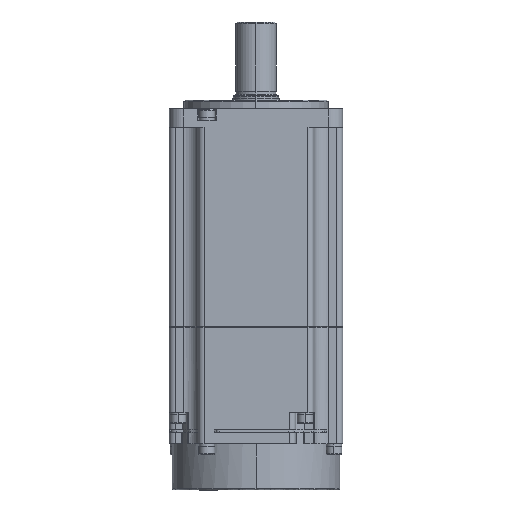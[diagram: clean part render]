
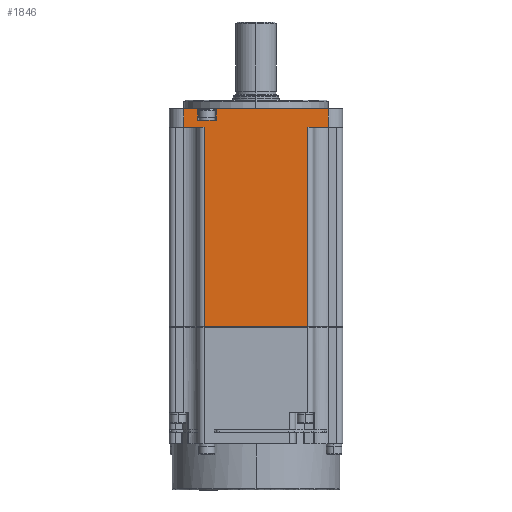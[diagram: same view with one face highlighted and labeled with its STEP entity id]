
A CAD part, front view. The second image highlights one B-rep face of the part: STEP entity #1846.
In plain terms, the highlighted planar face has unit normal (0, -1, 0).
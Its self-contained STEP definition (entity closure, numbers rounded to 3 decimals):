
#574 = VECTOR ( 'NONE', #13949, 1000. ) ;
#761 = DIRECTION ( 'NONE',  ( 1., 0., 0. ) ) ;
#762 = LINE ( 'NONE', #33940, #574 ) ;
#883 = CARTESIAN_POINT ( 'NONE',  ( -18., -30., 62.7 ) ) ;
#942 = DIRECTION ( 'NONE',  ( 0., 0., -1. ) ) ;
#948 = ORIENTED_EDGE ( 'NONE', *, *, #26520, .T. ) ;
#1383 = CARTESIAN_POINT ( 'NONE',  ( -25., -30., 55.7 ) ) ;
#1846 = ADVANCED_FACE ( 'NONE', ( #44628 ), #31907, .T. ) ;
#1963 = VECTOR ( 'NONE', #17469, 1000. ) ;
#2011 = LINE ( 'NONE', #1383, #1963 ) ;
#2272 = LINE ( 'NONE', #29491, #2508 ) ;
#2508 = VECTOR ( 'NONE', #5359, 1000. ) ;
#2511 = VERTEX_POINT ( 'NONE', #38206 ) ;
#2664 = ORIENTED_EDGE ( 'NONE', *, *, #3378, .T. ) ;
#2924 = DIRECTION ( 'NONE',  ( 0., 0., -1. ) ) ;
#3006 = CARTESIAN_POINT ( 'NONE',  ( -20.25, -30., 59.7 ) ) ;
#3142 = EDGE_CURVE ( 'NONE', #3920, #37484, #30599, .T. ) ;
#3378 = EDGE_CURVE ( 'NONE', #20192, #23199, #9433, .T. ) ;
#3920 = VERTEX_POINT ( 'NONE', #41081 ) ;
#5359 = DIRECTION ( 'NONE',  ( 0., 0., -1. ) ) ;
#6926 = VERTEX_POINT ( 'NONE', #37140 ) ;
#9433 = LINE ( 'NONE', #12657, #9535 ) ;
#9535 = VECTOR ( 'NONE', #11806, 1000. ) ;
#9812 = VERTEX_POINT ( 'NONE', #50660 ) ;
#10843 = ORIENTED_EDGE ( 'NONE', *, *, #25667, .T. ) ;
#10996 = VECTOR ( 'NONE', #13310, 1000. ) ;
#11052 = LINE ( 'NONE', #13366, #10996 ) ;
#11798 = CARTESIAN_POINT ( 'NONE',  ( -13.75, -30., 59.7 ) ) ;
#11806 = DIRECTION ( 'NONE',  ( -1., 0., 0. ) ) ;
#12313 = EDGE_CURVE ( 'NONE', #17481, #12872, #46751, .T. ) ;
#12389 = EDGE_CURVE ( 'NONE', #9812, #12872, #37854, .T. ) ;
#12535 = EDGE_CURVE ( 'NONE', #6926, #9812, #11052, .T. ) ;
#12657 = CARTESIAN_POINT ( 'NONE',  ( -25., -30., 59.7 ) ) ;
#12782 = ORIENTED_EDGE ( 'NONE', *, *, #25893, .T. ) ;
#12872 = VERTEX_POINT ( 'NONE', #40976 ) ;
#12930 = ORIENTED_EDGE ( 'NONE', *, *, #12535, .F. ) ;
#13310 = DIRECTION ( 'NONE',  ( 0., 0., -1. ) ) ;
#13366 = CARTESIAN_POINT ( 'NONE',  ( 18., -30., 54.2 ) ) ;
#13833 = VECTOR ( 'NONE', #761, 1000. ) ;
#13949 = DIRECTION ( 'NONE',  ( 0., 0., 1. ) ) ;
#15182 = CARTESIAN_POINT ( 'NONE',  ( -25., -30., 62.7 ) ) ;
#16028 = VECTOR ( 'NONE', #46547, 1000. ) ;
#16283 = AXIS2_PLACEMENT_3D ( 'NONE', #29957, #29885, #29821 ) ;
#16560 = CARTESIAN_POINT ( 'NONE',  ( -25., -30., 59.7 ) ) ;
#17469 = DIRECTION ( 'NONE',  ( -1., 0., 0. ) ) ;
#17481 = VERTEX_POINT ( 'NONE', #45120 ) ;
#19545 = ORIENTED_EDGE ( 'NONE', *, *, #26285, .T. ) ;
#19770 = CARTESIAN_POINT ( 'NONE',  ( -25., -30., 53.2 ) ) ;
#20192 = VERTEX_POINT ( 'NONE', #3006 ) ;
#20277 = CARTESIAN_POINT ( 'NONE',  ( -25., -30., 53.2 ) ) ;
#20510 = EDGE_LOOP ( 'NONE', ( #12782, #43132, #44337, #47258, #12930, #948, #19545, #25820, #10843, #26822, #34690, #2664 ) ) ;
#23199 = VERTEX_POINT ( 'NONE', #16560 ) ;
#25667 = EDGE_CURVE ( 'NONE', #37484, #2511, #2272, .T. ) ;
#25686 = EDGE_CURVE ( 'NONE', #2511, #32480, #2011, .T. ) ;
#25759 = EDGE_CURVE ( 'NONE', #32480, #20192, #762, .T. ) ;
#25820 = ORIENTED_EDGE ( 'NONE', *, *, #3142, .T. ) ;
#25893 = EDGE_CURVE ( 'NONE', #23199, #37526, #46928, .T. ) ;
#25972 = EDGE_CURVE ( 'NONE', #37526, #17481, #46800, .T. ) ;
#26285 = EDGE_CURVE ( 'NONE', #43263, #3920, #47631, .T. ) ;
#26520 = EDGE_CURVE ( 'NONE', #6926, #43263, #32893, .T. ) ;
#26822 = ORIENTED_EDGE ( 'NONE', *, *, #25686, .T. ) ;
#27571 = CARTESIAN_POINT ( 'NONE',  ( -25., -30., 59.7 ) ) ;
#29201 = CARTESIAN_POINT ( 'NONE',  ( -25., -30., 53.2 ) ) ;
#29285 = DIRECTION ( 'NONE',  ( -1., 0., 0. ) ) ;
#29491 = CARTESIAN_POINT ( 'NONE',  ( -13.75, -30., 62.7 ) ) ;
#29821 = DIRECTION ( 'NONE',  ( 0., 0., -1. ) ) ;
#29885 = DIRECTION ( 'NONE',  ( 0., -1., 0. ) ) ;
#29957 = CARTESIAN_POINT ( 'NONE',  ( -25., -30., 62.7 ) ) ;
#30599 = LINE ( 'NONE', #27571, #46051 ) ;
#31710 = CARTESIAN_POINT ( 'NONE',  ( -9., -30., -15.7 ) ) ;
#31855 = CARTESIAN_POINT ( 'NONE',  ( -20.25, -30., 55.7 ) ) ;
#31907 = PLANE ( 'NONE',  #16283 ) ;
#32336 = CARTESIAN_POINT ( 'NONE',  ( 25., -30., 53.2 ) ) ;
#32480 = VERTEX_POINT ( 'NONE', #31855 ) ;
#32893 = LINE ( 'NONE', #29201, #13833 ) ;
#33940 = CARTESIAN_POINT ( 'NONE',  ( -20.25, -30., 62.7 ) ) ;
#34690 = ORIENTED_EDGE ( 'NONE', *, *, #25759, .T. ) ;
#34912 = DIRECTION ( 'NONE',  ( 0., 0., 1. ) ) ;
#37140 = CARTESIAN_POINT ( 'NONE',  ( 18., -30., 53.2 ) ) ;
#37484 = VERTEX_POINT ( 'NONE', #11798 ) ;
#37526 = VERTEX_POINT ( 'NONE', #20277 ) ;
#37854 = LINE ( 'NONE', #31710, #16028 ) ;
#38206 = CARTESIAN_POINT ( 'NONE',  ( -13.75, -30., 55.7 ) ) ;
#39076 = VECTOR ( 'NONE', #34912, 1000. ) ;
#40976 = CARTESIAN_POINT ( 'NONE',  ( -18., -30., -15.7 ) ) ;
#41081 = CARTESIAN_POINT ( 'NONE',  ( 25., -30., 59.7 ) ) ;
#43132 = ORIENTED_EDGE ( 'NONE', *, *, #25972, .T. ) ;
#43263 = VERTEX_POINT ( 'NONE', #32336 ) ;
#43341 = DIRECTION ( 'NONE',  ( 1., 0., 0. ) ) ;
#44337 = ORIENTED_EDGE ( 'NONE', *, *, #12313, .T. ) ;
#44628 = FACE_OUTER_BOUND ( 'NONE', #20510, .T. ) ;
#45069 = VECTOR ( 'NONE', #942, 1000. ) ;
#45120 = CARTESIAN_POINT ( 'NONE',  ( -18., -30., 53.2 ) ) ;
#45935 = VECTOR ( 'NONE', #43341, 1000. ) ;
#46051 = VECTOR ( 'NONE', #29285, 1000. ) ;
#46547 = DIRECTION ( 'NONE',  ( -1., 0., 0. ) ) ;
#46751 = LINE ( 'NONE', #883, #45069 ) ;
#46800 = LINE ( 'NONE', #19770, #45935 ) ;
#46928 = LINE ( 'NONE', #15182, #47027 ) ;
#47027 = VECTOR ( 'NONE', #2924, 1000. ) ;
#47258 = ORIENTED_EDGE ( 'NONE', *, *, #12389, .F. ) ;
#47631 = LINE ( 'NONE', #49857, #39076 ) ;
#49857 = CARTESIAN_POINT ( 'NONE',  ( 25., -30., 62.7 ) ) ;
#50660 = CARTESIAN_POINT ( 'NONE',  ( 18., -30., -15.7 ) ) ;
